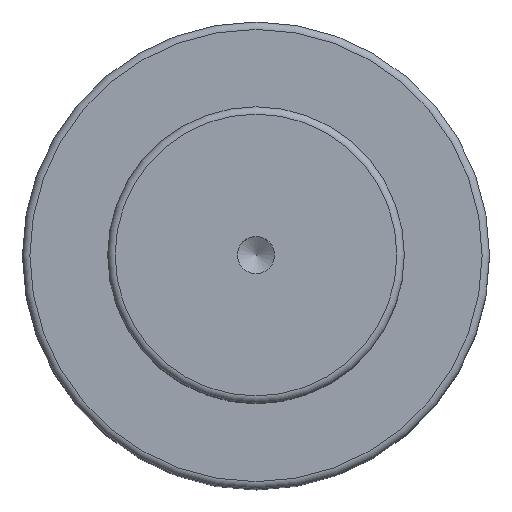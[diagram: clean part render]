
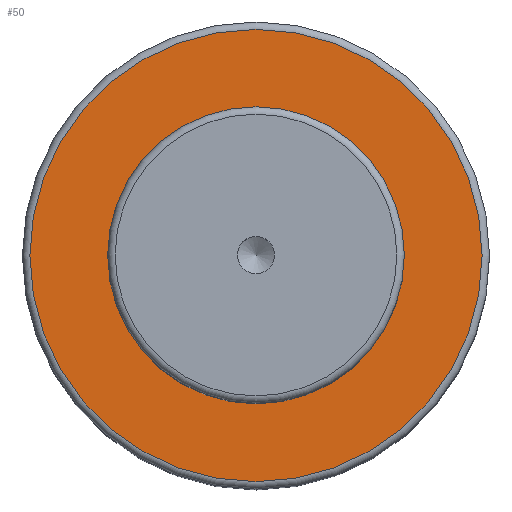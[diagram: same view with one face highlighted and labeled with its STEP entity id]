
A CAD part, top view. The second image highlights one B-rep face of the part: STEP entity #50.
In plain terms, the highlighted planar face has unit normal (0, 0, 1).
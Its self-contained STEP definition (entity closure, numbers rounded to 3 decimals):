
#40=PLANE('',#179);
#50=ADVANCED_FACE('',(#72,#73),#40,.F.);
#72=FACE_BOUND('',#96,.T.);
#73=FACE_BOUND('',#97,.T.);
#96=EDGE_LOOP('',(#118));
#97=EDGE_LOOP('',(#119));
#118=ORIENTED_EDGE('',*,*,#149,.F.);
#119=ORIENTED_EDGE('',*,*,#148,.T.);
#135=VERTEX_POINT('',#256);
#136=VERTEX_POINT('',#259);
#148=EDGE_CURVE('',#135,#135,#159,.T.);
#149=EDGE_CURVE('',#136,#136,#160,.T.);
#159=CIRCLE('',#176,20.);
#160=CIRCLE('',#178,30.5);
#176=AXIS2_PLACEMENT_3D('',#255,#213,#214);
#178=AXIS2_PLACEMENT_3D('',#258,#217,#218);
#179=AXIS2_PLACEMENT_3D('',#260,#219,#220);
#213=DIRECTION('',(0.,0.,-1.));
#214=DIRECTION('',(-1.,0.,0.));
#217=DIRECTION('',(0.,0.,-1.));
#218=DIRECTION('',(-1.,0.,0.));
#219=DIRECTION('',(0.,0.,-1.));
#220=DIRECTION('',(-1.,0.,0.));
#255=CARTESIAN_POINT('',(0.,0.,72.));
#256=CARTESIAN_POINT('',(-20.,0.,72.));
#258=CARTESIAN_POINT('',(0.,0.,72.));
#259=CARTESIAN_POINT('',(-30.5,0.,72.));
#260=CARTESIAN_POINT('',(20.,0.,72.));
